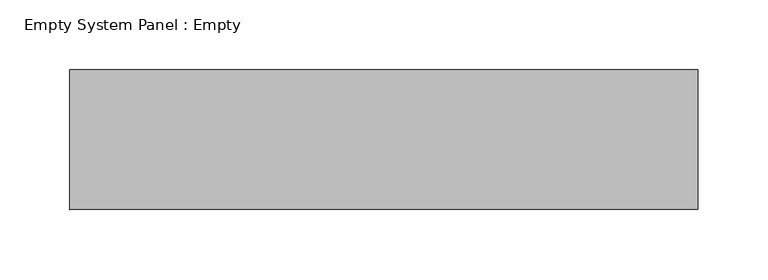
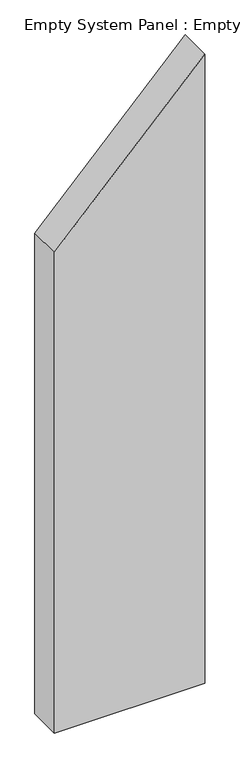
"""IFC4 building model written with IfcOpenShell, lengths in millimetres: plate geometry, Empty System Panel : Empty."""

from ifc_helpers import new_model, si_unit, frame, origin, place, context, project, spatial, polyline, outline, extrude, source, transform, mapped, element, save


def empty_system_panel_empty_ec251fb9(model_context):
    return source(origin(), model_context, "Body", "SweptSolid", [
        extrude(outline(polyline([(0.0, -225.0), (0.0, 225.0), (1989.6763741, 225.0), (1519.8625813, -225.0), (0.0, -225.0)])), frame((0.0, -50.0, 0.0), z_axis=(0.0, 1.0, 0.0), x_axis=(0.0, 0.0, 1.0)), (0.0, 0.0, 1.0), 100.0),
    ])


if __name__ == "__main__":
    model = new_model("IFC4")
    model_context = context("Model", 3, world=origin())
    ifc_project = project(units=[si_unit("LENGTHUNIT", "METRE", prefix="MILLI")], contexts=[model_context])
    site = spatial("IfcSite", under=ifc_project)
    building = spatial("IfcBuilding", under=site)
    placement = place(None, origin())
    empty_system_panel_empty_shape = empty_system_panel_empty_ec251fb9(model_context)
    element("IfcPlate", 1, ObjectType="Empty System Panel : Empty", at=placement, inside=building, context=model_context, shape_type="MappedRepresentation", body=[
        mapped(empty_system_panel_empty_shape, transform((0.0, 0.0, 0.0), x_axis=(1.0, 0.0, 0.0), y_axis=(0.0, 1.0, 0.0), z_axis=(0.0, 0.0, 1.0))),
    ])
    save(model, "model.ifc")
